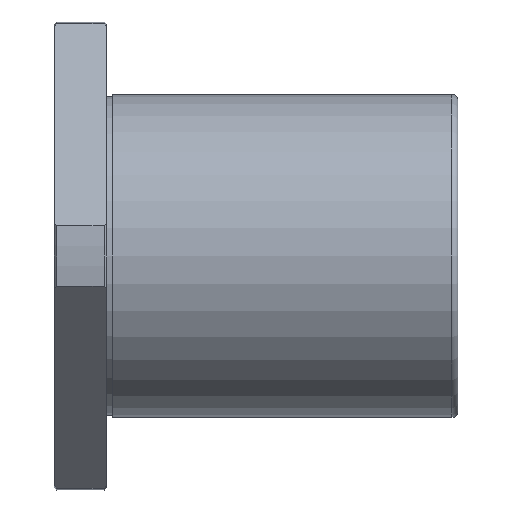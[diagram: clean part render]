
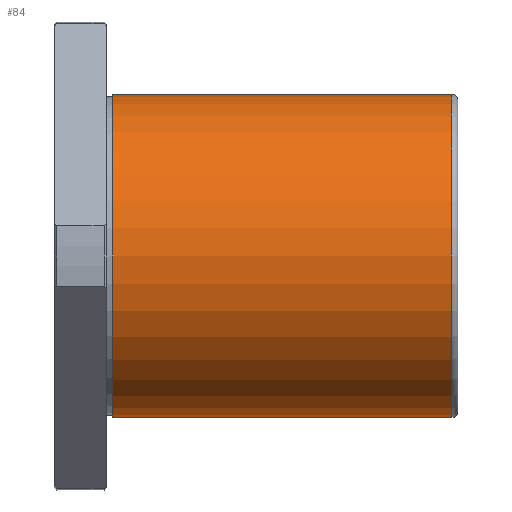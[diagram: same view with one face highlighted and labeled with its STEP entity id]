
A CAD part, front view. The second image highlights one B-rep face of the part: STEP entity #84.
In plain terms, the highlighted cylindrical face has radius 40 mm (diameter 80 mm), a full revolution.
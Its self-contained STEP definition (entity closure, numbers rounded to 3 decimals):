
#84=ADVANCED_FACE('',(#137,#138),#139,.T.);
#137=FACE_OUTER_BOUND('',#237,.T.);
#138=FACE_OUTER_BOUND('',#238,.T.);
#139=CYLINDRICAL_SURFACE('',#239,40.0);
#237=EDGE_LOOP('',(#388));
#238=EDGE_LOOP('',(#389));
#239=AXIS2_PLACEMENT_3D('',#390,#391,#392);
#388=ORIENTED_EDGE('',*,*,#602,.T.);
#389=ORIENTED_EDGE('',*,*,#603,.F.);
#390=CARTESIAN_POINT('',(100.0,0.0,0.0));
#391=DIRECTION('',(1.0,-0.0,-0.0));
#392=DIRECTION('',(0.0,0.0,1.0));
#602=EDGE_CURVE('',#707,#707,#708,.T.);
#603=EDGE_CURVE('',#709,#709,#710,.T.);
#707=VERTEX_POINT('',#877);
#708=CIRCLE('',#878,40.0);
#709=VERTEX_POINT('',#879);
#710=CIRCLE('',#880,40.0);
#877=CARTESIAN_POINT('',(98.5,0.0,40.0));
#878=AXIS2_PLACEMENT_3D('',#1014,#1015,#1016);
#879=CARTESIAN_POINT('',(14.5,0.0,40.0));
#880=AXIS2_PLACEMENT_3D('',#1017,#1018,#1019);
#1014=CARTESIAN_POINT('',(98.5,0.0,0.0));
#1015=DIRECTION('',(-1.0,0.0,0.0));
#1016=DIRECTION('',(0.0,0.0,1.0));
#1017=CARTESIAN_POINT('',(14.5,0.0,0.0));
#1018=DIRECTION('',(-1.0,0.0,0.0));
#1019=DIRECTION('',(0.0,0.0,1.0));
